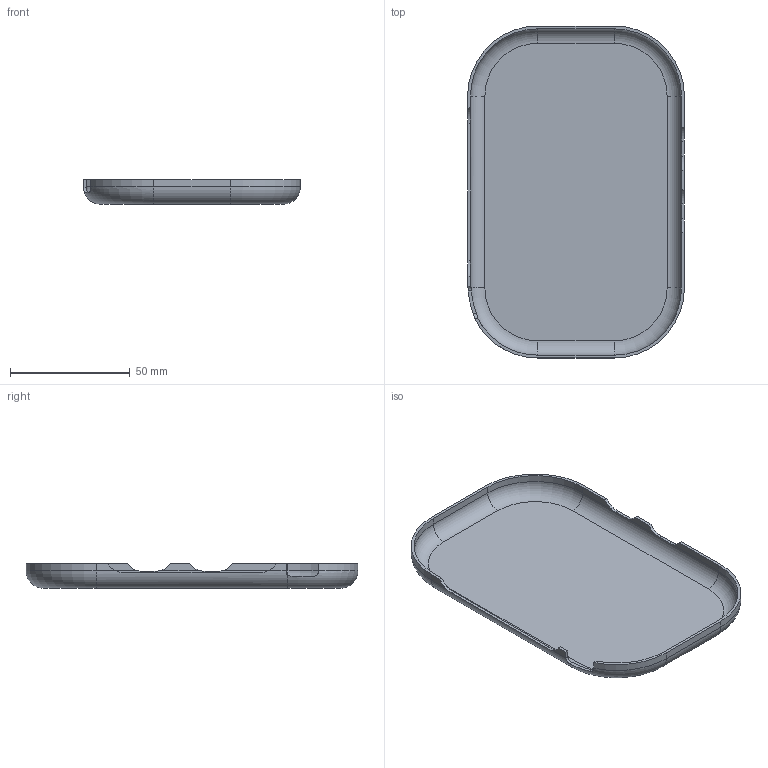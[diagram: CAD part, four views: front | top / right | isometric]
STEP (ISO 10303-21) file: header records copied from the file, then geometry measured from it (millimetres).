
FILE_DESCRIPTION(('Open CASCADE Model'),'2;1');
FILE_NAME('Open CASCADE Shape Model','2026-09-08T11:26:26',('Author'),( 'Open CASCADE'),'Open CASCADE STEP processor 7.8','build123d', 'Unknown');
FILE_SCHEMA(('AUTOMOTIVE_DESIGN { 1 0 10303 214 1 1 1 1 }'));
Length unit declared in the file: millimetre
Products named in the file (1): SOLID
Bounding box: 90.4 x 138.4 x 10.2 mm (x, y, z)
Volume: 16586.4 mm3; surface area: 28277.4 mm2
Topology: 1 solids, 1 shells, 341 faces, 970 edges, 642 vertices
Faces by surface type: plane 309, cylinder 24, torus 8
Entity records: 24260 total; most frequent: CARTESIAN_POINT 4802, DIRECTION 3578, LINE 2762, VECTOR 2762, ORIENTED_EDGE 1940, PCURVE 1940, DEFINITIONAL_REPRESENTATION 1940, EDGE_CURVE 970
